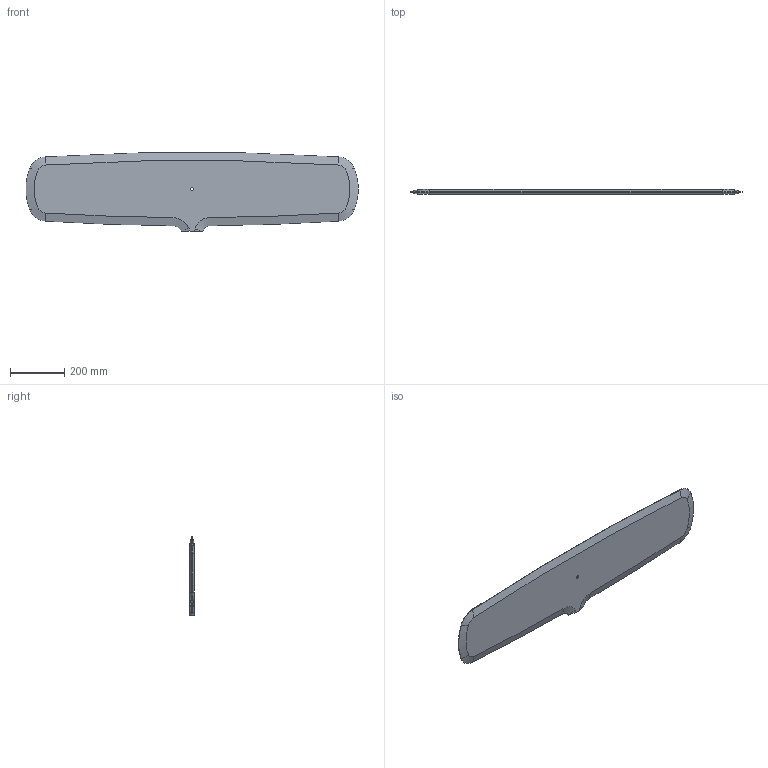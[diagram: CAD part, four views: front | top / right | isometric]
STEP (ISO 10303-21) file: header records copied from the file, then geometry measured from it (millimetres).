
FILE_DESCRIPTION (( 'STEP AP203' ), '1' );
FILE_NAME ('BALDA_M_CENTRAL.STEP', '2017-05-05T10:49:34', ( 'Usuario' ), ( '' ), 'SwSTEP 2.0', 'SolidWorks 2016', '' );
FILE_SCHEMA (( 'CONFIG_CONTROL_DESIGN' ));
Length unit declared in the file: millimetre
Products named in the file (1): BALDA_M_CENTRAL
Bounding box: 1218.83 x 18 x 288.1 mm (x, y, z)
Volume: 4896649.9 mm3; surface area: 627524.1 mm2
Topology: 1 solids, 1 shells, 44 faces, 102 edges, 60 vertices
Faces by surface type: cone 16, cylinder 10, plane 9, bspline 9
Entity records: 1459 total; most frequent: CARTESIAN_POINT 430, ORIENTED_EDGE 204, DIRECTION 186, EDGE_CURVE 102, AXIS2_PLACEMENT_3D 72, VERTEX_POINT 60, EDGE_LOOP 46, ADVANCED_FACE 44
